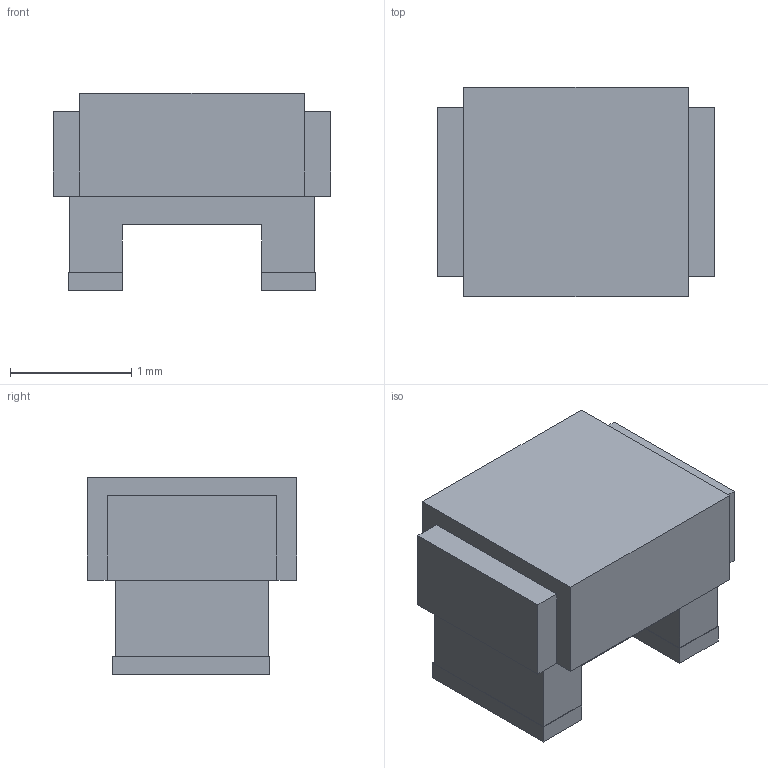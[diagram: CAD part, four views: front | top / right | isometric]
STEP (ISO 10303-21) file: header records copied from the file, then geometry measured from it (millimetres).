
FILE_DESCRIPTION(('STEP AP203'), '1');
FILE_NAME('KIK 2012 (0805) Çë', '', ('UNSPECIFIED'), ('UNSPECIFIED'), 'ASCON STEP Converter 1.6', 'ASCON Math Kernel', '');
FILE_SCHEMA(('CONFIG_CONTROL_DESIGN'));
Length unit declared in the file: millimetre
Assembly tree (1 placements, depth 2):
  (unnamed)
    (unnamed)
Bounding box: 2.29 x 1.73 x 1.63 mm (x, y, z)
Volume: 4.4 mm3; surface area: 19.9 mm2
Topology: 1 solids, 2 shells, 52 faces, 135 edges, 90 vertices
Faces by surface type: plane 48, cylinder 4
Entity records: 2079 total; most frequent: CARTESIAN_POINT 279, ORIENTED_EDGE 270, DIRECTION 251, EDGE_CURVE 135, LINE 127, VECTOR 127, VERTEX_POINT 90, AXIS2_PLACEMENT_3D 62
